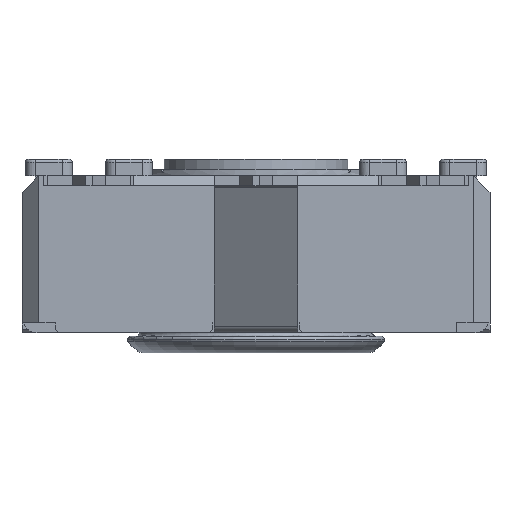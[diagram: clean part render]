
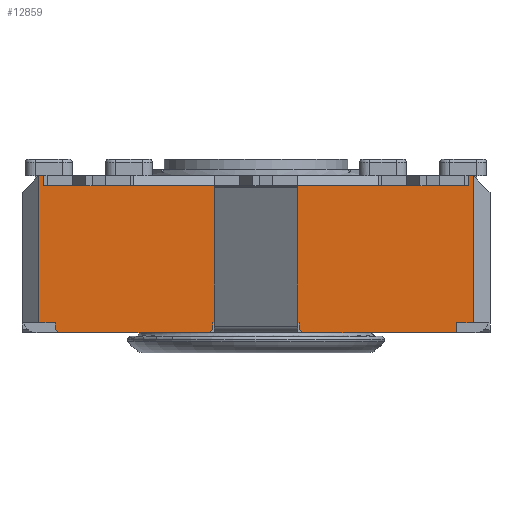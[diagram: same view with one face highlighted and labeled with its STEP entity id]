
A CAD part, front view. The second image highlights one B-rep face of the part: STEP entity #12859.
In plain terms, the highlighted planar face has unit normal (0, -1, 0).
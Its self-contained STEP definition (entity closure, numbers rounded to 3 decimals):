
#966=FACE_OUTER_BOUND('',#1639,.T.);
#1639=EDGE_LOOP('',(#10054,#10055,#10056,#10057,#10058,#10059,#10060,#10061,
#10062,#10063,#10064,#10065,#10066,#10067,#10068,#10069,#10070,#10071,#10072,
#10073,#10074,#10075,#10076,#10077,#10078,#10079,#10080));
#2045=LINE('',#17911,#3529);
#2047=LINE('',#17916,#3531);
#2123=LINE('',#18102,#3607);
#2162=LINE('',#18208,#3646);
#2167=LINE('',#18218,#3651);
#2229=LINE('',#18349,#3713);
#2236=LINE('',#18366,#3720);
#2365=LINE('',#18770,#3849);
#2380=LINE('',#18799,#3864);
#2448=LINE('',#18951,#3932);
#2456=LINE('',#18964,#3940);
#2574=LINE('',#19438,#4058);
#2781=LINE('',#19962,#4265);
#2786=LINE('',#19971,#4270);
#2789=LINE('',#19976,#4273);
#2877=LINE('',#20254,#4361);
#2885=LINE('',#20272,#4369);
#2891=LINE('',#20280,#4375);
#2892=LINE('',#20283,#4376);
#2893=LINE('',#20285,#4377);
#2894=LINE('',#20287,#4378);
#2895=LINE('',#20288,#4379);
#2896=LINE('',#20289,#4380);
#2897=LINE('',#20290,#4381);
#2898=LINE('',#20291,#4382);
#2899=LINE('',#20292,#4383);
#2900=LINE('',#20293,#4384);
#3529=VECTOR('',#14362,10.);
#3531=VECTOR('',#14366,10.);
#3607=VECTOR('',#14512,10.);
#3646=VECTOR('',#14593,10.);
#3651=VECTOR('',#14598,10.);
#3713=VECTOR('',#14710,10.);
#3720=VECTOR('',#14723,10.);
#3849=VECTOR('',#15148,10.);
#3864=VECTOR('',#15177,10.);
#3932=VECTOR('',#15327,10.);
#3940=VECTOR('',#15337,10.);
#4058=VECTOR('',#15597,10.);
#4265=VECTOR('',#15946,10.);
#4270=VECTOR('',#15951,10.);
#4273=VECTOR('',#15956,10.);
#4361=VECTOR('',#16182,10.);
#4369=VECTOR('',#16194,10.);
#4375=VECTOR('',#16204,10.);
#4376=VECTOR('',#16207,10.);
#4377=VECTOR('',#16208,10.);
#4378=VECTOR('',#16209,10.);
#4379=VECTOR('',#16210,10.);
#4380=VECTOR('',#16211,10.);
#4381=VECTOR('',#16212,10.);
#4382=VECTOR('',#16213,10.);
#4383=VECTOR('',#16214,10.);
#4384=VECTOR('',#16215,10.);
#4985=VERTEX_POINT('',#17899);
#4989=VERTEX_POINT('',#17909);
#4990=VERTEX_POINT('',#17913);
#4991=VERTEX_POINT('',#17915);
#5004=VERTEX_POINT('',#17947);
#5066=VERTEX_POINT('',#18101);
#5112=VERTEX_POINT('',#18207);
#5116=VERTEX_POINT('',#18215);
#5117=VERTEX_POINT('',#18217);
#5161=VERTEX_POINT('',#18347);
#5168=VERTEX_POINT('',#18365);
#5294=VERTEX_POINT('',#18767);
#5295=VERTEX_POINT('',#18769);
#5301=VERTEX_POINT('',#18796);
#5302=VERTEX_POINT('',#18798);
#5345=VERTEX_POINT('',#18950);
#5349=VERTEX_POINT('',#18962);
#5477=VERTEX_POINT('',#19434);
#5628=VERTEX_POINT('',#19961);
#5632=VERTEX_POINT('',#19969);
#5685=VERTEX_POINT('',#20252);
#5686=VERTEX_POINT('',#20253);
#5693=VERTEX_POINT('',#20270);
#5694=VERTEX_POINT('',#20271);
#5695=VERTEX_POINT('',#20282);
#5696=VERTEX_POINT('',#20284);
#5697=VERTEX_POINT('',#20286);
#6231=EDGE_CURVE('',#4985,#4989,#2045,.T.);
#6233=EDGE_CURVE('',#4991,#4990,#2047,.T.);
#6326=EDGE_CURVE('',#5066,#5004,#2123,.T.);
#6379=EDGE_CURVE('',#5112,#5066,#2162,.T.);
#6384=EDGE_CURVE('',#5117,#5116,#2167,.T.);
#6451=EDGE_CURVE('',#4990,#5161,#2229,.T.);
#6459=EDGE_CURVE('',#5168,#4991,#2236,.T.);
#6662=EDGE_CURVE('',#5295,#5294,#2365,.T.);
#6677=EDGE_CURVE('',#5302,#5301,#2380,.T.);
#6754=EDGE_CURVE('',#5345,#4985,#2448,.T.);
#6762=EDGE_CURVE('',#4989,#5349,#2456,.T.);
#6929=EDGE_CURVE('',#5302,#5477,#2574,.T.);
#7157=EDGE_CURVE('',#5628,#5477,#2781,.T.);
#7162=EDGE_CURVE('',#5004,#5632,#2786,.T.);
#7165=EDGE_CURVE('',#5117,#5294,#2789,.T.);
#7272=EDGE_CURVE('',#5685,#5686,#2877,.T.);
#7280=EDGE_CURVE('',#5693,#5694,#2885,.T.);
#7286=EDGE_CURVE('',#5112,#5685,#2891,.T.);
#7287=EDGE_CURVE('',#5632,#5695,#2892,.T.);
#7288=EDGE_CURVE('',#5696,#5695,#2893,.T.);
#7289=EDGE_CURVE('',#5696,#5697,#2894,.T.);
#7290=EDGE_CURVE('',#5697,#5628,#2895,.T.);
#7291=EDGE_CURVE('',#5301,#5345,#2896,.T.);
#7292=EDGE_CURVE('',#5168,#5349,#2897,.T.);
#7293=EDGE_CURVE('',#5161,#5295,#2898,.T.);
#7294=EDGE_CURVE('',#5116,#5694,#2899,.T.);
#7295=EDGE_CURVE('',#5693,#5686,#2900,.T.);
#10054=ORIENTED_EDGE('',*,*,#7272,.F.);
#10055=ORIENTED_EDGE('',*,*,#7286,.F.);
#10056=ORIENTED_EDGE('',*,*,#6379,.T.);
#10057=ORIENTED_EDGE('',*,*,#6326,.T.);
#10058=ORIENTED_EDGE('',*,*,#7162,.T.);
#10059=ORIENTED_EDGE('',*,*,#7287,.T.);
#10060=ORIENTED_EDGE('',*,*,#7288,.F.);
#10061=ORIENTED_EDGE('',*,*,#7289,.T.);
#10062=ORIENTED_EDGE('',*,*,#7290,.T.);
#10063=ORIENTED_EDGE('',*,*,#7157,.T.);
#10064=ORIENTED_EDGE('',*,*,#6929,.F.);
#10065=ORIENTED_EDGE('',*,*,#6677,.T.);
#10066=ORIENTED_EDGE('',*,*,#7291,.T.);
#10067=ORIENTED_EDGE('',*,*,#6754,.T.);
#10068=ORIENTED_EDGE('',*,*,#6231,.T.);
#10069=ORIENTED_EDGE('',*,*,#6762,.T.);
#10070=ORIENTED_EDGE('',*,*,#7292,.F.);
#10071=ORIENTED_EDGE('',*,*,#6459,.T.);
#10072=ORIENTED_EDGE('',*,*,#6233,.T.);
#10073=ORIENTED_EDGE('',*,*,#6451,.T.);
#10074=ORIENTED_EDGE('',*,*,#7293,.T.);
#10075=ORIENTED_EDGE('',*,*,#6662,.T.);
#10076=ORIENTED_EDGE('',*,*,#7165,.F.);
#10077=ORIENTED_EDGE('',*,*,#6384,.T.);
#10078=ORIENTED_EDGE('',*,*,#7294,.T.);
#10079=ORIENTED_EDGE('',*,*,#7280,.F.);
#10080=ORIENTED_EDGE('',*,*,#7295,.T.);
#12055=PLANE('',#13716);
#12859=ADVANCED_FACE('',(#966),#12055,.T.);
#13716=AXIS2_PLACEMENT_3D('',#20281,#16205,#16206);
#14362=DIRECTION('',(-1.,0.,0.));
#14366=DIRECTION('',(-1.,0.,0.));
#14512=DIRECTION('',(1.,0.,0.));
#14593=DIRECTION('',(1.,0.,0.));
#14598=DIRECTION('',(1.,0.,0.));
#14710=DIRECTION('',(-1.,0.,0.));
#14723=DIRECTION('',(-1.,0.,0.));
#15148=DIRECTION('',(-1.,0.,0.));
#15177=DIRECTION('',(-1.,0.,0.));
#15327=DIRECTION('',(-1.,0.,0.));
#15337=DIRECTION('',(-1.,0.,0.));
#15597=DIRECTION('',(0.,0.,-1.));
#15946=DIRECTION('',(1.,0.,0.));
#15951=DIRECTION('',(1.,0.,0.));
#15956=DIRECTION('',(0.,0.,1.));
#16182=DIRECTION('',(-0.707,0.,-0.707));
#16194=DIRECTION('',(-0.707,0.,0.707));
#16204=DIRECTION('',(0.,0.,-1.));
#16205=DIRECTION('center_axis',(0.,-1.,0.));
#16206=DIRECTION('ref_axis',(0.,0.,-1.));
#16207=DIRECTION('',(0.,0.,-1.));
#16208=DIRECTION('',(-0.707,0.,0.707));
#16209=DIRECTION('',(1.,0.,0.));
#16210=DIRECTION('',(0.,0.,1.));
#16211=DIRECTION('',(0.,0.,-1.));
#16212=DIRECTION('',(1.,0.,0.));
#16213=DIRECTION('',(0.,0.,1.));
#16214=DIRECTION('',(0.,0.,-1.));
#16215=DIRECTION('',(1.,0.,0.));
#17899=CARTESIAN_POINT('',(-1.217,-9.898,4.1));
#17909=CARTESIAN_POINT('',(-3.717,-9.898,4.1));
#17911=CARTESIAN_POINT('',(-1.862,-9.898,4.1));
#17913=CARTESIAN_POINT('',(-13.717,-9.898,4.1));
#17915=CARTESIAN_POINT('',(-11.217,-9.898,4.1));
#17916=CARTESIAN_POINT('',(-3.944,-9.898,4.1));
#17947=CARTESIAN_POINT('',(-6.217,-9.898,0.));
#18101=CARTESIAN_POINT('',(-8.717,-9.898,0.));
#18102=CARTESIAN_POINT('',(-14.467,-9.898,0.));
#18207=CARTESIAN_POINT('',(-8.767,-9.898,0.));
#18208=CARTESIAN_POINT('',(-14.467,-9.898,0.));
#18215=CARTESIAN_POINT('',(-13.467,-9.898,0.));
#18217=CARTESIAN_POINT('',(-13.967,-9.898,0.));
#18218=CARTESIAN_POINT('',(-7.245,-9.898,0.));
#18347=CARTESIAN_POINT('',(-13.817,-9.898,4.1));
#18349=CARTESIAN_POINT('',(-3.944,-9.898,4.1));
#18365=CARTESIAN_POINT('',(-11.117,-9.898,4.1));
#18366=CARTESIAN_POINT('',(-3.944,-9.898,4.1));
#18767=CARTESIAN_POINT('',(-13.967,-9.898,4.4));
#18769=CARTESIAN_POINT('',(-13.817,-9.898,4.4));
#18770=CARTESIAN_POINT('',(-14.467,-9.898,4.4));
#18796=CARTESIAN_POINT('',(-1.117,-9.898,4.4));
#18798=CARTESIAN_POINT('',(-0.967,-9.898,4.4));
#18799=CARTESIAN_POINT('',(-14.467,-9.898,4.4));
#18950=CARTESIAN_POINT('',(-1.117,-9.898,4.1));
#18951=CARTESIAN_POINT('',(-1.862,-9.898,4.1));
#18962=CARTESIAN_POINT('',(-3.817,-9.898,4.1));
#18964=CARTESIAN_POINT('',(-1.862,-9.898,4.1));
#19434=CARTESIAN_POINT('',(-0.967,-9.898,0.));
#19438=CARTESIAN_POINT('',(-0.967,-9.898,0.));
#19961=CARTESIAN_POINT('',(-1.467,-9.898,0.));
#19962=CARTESIAN_POINT('',(-0.646,-9.898,0.));
#19969=CARTESIAN_POINT('',(-6.167,-9.898,0.));
#19971=CARTESIAN_POINT('',(-14.467,-9.898,0.));
#19976=CARTESIAN_POINT('',(-13.967,-9.898,0.));
#20252=CARTESIAN_POINT('',(-8.767,-9.898,-0.2));
#20253=CARTESIAN_POINT('',(-8.867,-9.898,-0.3));
#20254=CARTESIAN_POINT('',(-6.667,-9.898,1.9));
#20270=CARTESIAN_POINT('',(-13.367,-9.898,-0.3));
#20271=CARTESIAN_POINT('',(-13.467,-9.898,-0.2));
#20272=CARTESIAN_POINT('',(-10.242,-9.898,-3.425));
#20280=CARTESIAN_POINT('',(-8.767,-9.898,0.));
#20281=CARTESIAN_POINT('Origin',(-0.467,-9.898,0.));
#20282=CARTESIAN_POINT('',(-6.167,-9.898,-0.2));
#20283=CARTESIAN_POINT('',(-6.167,-9.898,0.));
#20284=CARTESIAN_POINT('',(-6.067,-9.898,-0.3));
#20285=CARTESIAN_POINT('',(-4.767,-9.898,-1.6));
#20286=CARTESIAN_POINT('',(-1.467,-9.898,-0.3));
#20287=CARTESIAN_POINT('',(-0.467,-9.898,-0.3));
#20288=CARTESIAN_POINT('',(-1.467,-9.898,-0.15));
#20289=CARTESIAN_POINT('',(-1.117,-9.898,2.2));
#20290=CARTESIAN_POINT('',(-3.967,-9.898,4.1));
#20291=CARTESIAN_POINT('',(-13.817,-9.898,2.2));
#20292=CARTESIAN_POINT('',(-13.467,-9.898,-0.15));
#20293=CARTESIAN_POINT('',(-0.467,-9.898,-0.3));
